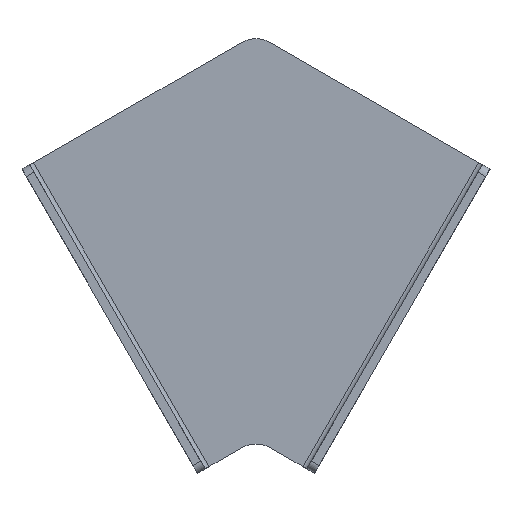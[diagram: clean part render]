
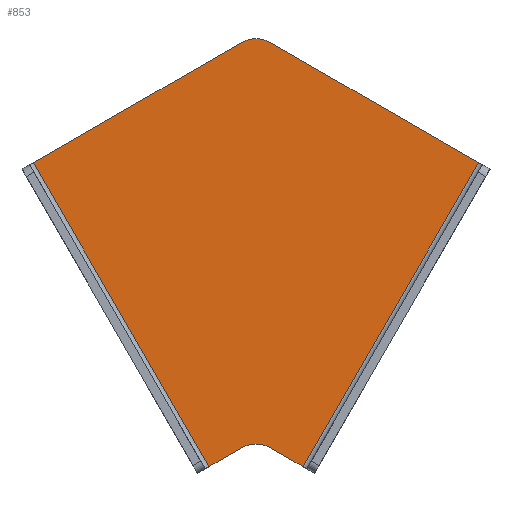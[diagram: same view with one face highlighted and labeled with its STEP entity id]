
A CAD part, top view. The second image highlights one B-rep face of the part: STEP entity #853.
In plain terms, the highlighted planar face has unit normal (0, 0, 1).
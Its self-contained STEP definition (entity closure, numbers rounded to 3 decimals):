
#15 = EDGE_CURVE ( 'NONE', #1645, #664, #381, .T. ) ;
#32 = AXIS2_PLACEMENT_3D ( 'NONE', #330, #1103, #1543 ) ;
#75 = CARTESIAN_POINT ( 'NONE',  ( 37.546, 64.988, 3. ) ) ;
#83 = CARTESIAN_POINT ( 'NONE',  ( 118.649, 23.936, 3. ) ) ;
#91 = LINE ( 'NONE', #1075, #743 ) ;
#109 = VECTOR ( 'NONE', #1148, 1000. ) ;
#114 = ORIENTED_EDGE ( 'NONE', *, *, #15, .F. ) ;
#151 = EDGE_CURVE ( 'NONE', #1662, #664, #1161, .T. ) ;
#182 = CARTESIAN_POINT ( 'NONE',  ( 47.546, -73.576, 3. ) ) ;
#214 = DIRECTION ( 'NONE',  ( 0., 0., 1. ) ) ;
#238 = CARTESIAN_POINT ( 'NONE',  ( 47.546, 64.988, 3. ) ) ;
#275 = CARTESIAN_POINT ( 'NONE',  ( 42.546, -82.237, 3. ) ) ;
#298 = ORIENTED_EDGE ( 'NONE', *, *, #1273, .T. ) ;
#330 = CARTESIAN_POINT ( 'NONE',  ( 0., 0., 3. ) ) ;
#332 = VECTOR ( 'NONE', #989, 1000. ) ;
#358 = CARTESIAN_POINT ( 'NONE',  ( 37.546, -73.576, 3. ) ) ;
#378 = CARTESIAN_POINT ( 'NONE',  ( -19.973, -34.594, 3. ) ) ;
#381 = LINE ( 'NONE', #450, #677 ) ;
#402 = DIRECTION ( 'NONE',  ( 1., 0., 0. ) ) ;
#422 = VERTEX_POINT ( 'NONE', #358 ) ;
#450 = CARTESIAN_POINT ( 'NONE',  ( -18.754, 32.483, 3. ) ) ;
#610 = ORIENTED_EDGE ( 'NONE', *, *, #1559, .T. ) ;
#615 = VECTOR ( 'NONE', #690, 1000. ) ;
#664 = VERTEX_POINT ( 'NONE', #75 ) ;
#677 = VECTOR ( 'NONE', #1220, 1000. ) ;
#690 = DIRECTION ( 'NONE',  ( -0.866, 0.5, 0. ) ) ;
#699 = VERTEX_POINT ( 'NONE', #83 ) ;
#717 = VECTOR ( 'NONE', #1617, 1000. ) ;
#743 = VECTOR ( 'NONE', #1210, 1000. ) ;
#748 = EDGE_CURVE ( 'NONE', #422, #963, #1096, .T. ) ;
#795 = EDGE_CURVE ( 'NONE', #1400, #422, #1434, .T. ) ;
#802 = CARTESIAN_POINT ( 'NONE',  ( 41.246, -71.44, 3. ) ) ;
#835 = ORIENTED_EDGE ( 'NONE', *, *, #1687, .T. ) ;
#853 = ADVANCED_FACE ( 'NONE', ( #1335 ), #1386, .T. ) ;
#865 = AXIS2_PLACEMENT_3D ( 'NONE', #275, #1172, #402 ) ;
#868 = CARTESIAN_POINT ( 'NONE',  ( 26.443, -79.987, 3. ) ) ;
#880 = ORIENTED_EDGE ( 'NONE', *, *, #748, .T. ) ;
#936 = ORIENTED_EDGE ( 'NONE', *, *, #151, .T. ) ;
#956 = CARTESIAN_POINT ( 'NONE',  ( 26.443, -79.987, 3. ) ) ;
#963 = VERTEX_POINT ( 'NONE', #182 ) ;
#989 = DIRECTION ( 'NONE',  ( 0.5, -0.866, 0. ) ) ;
#995 = CARTESIAN_POINT ( 'NONE',  ( 42.546, 56.327, 3. ) ) ;
#1033 = EDGE_LOOP ( 'NONE', ( #114, #298, #1631, #880, #835, #1230, #610, #936 ) ) ;
#1075 = CARTESIAN_POINT ( 'NONE',  ( 118.649, 23.936, 3. ) ) ;
#1096 = CIRCLE ( 'NONE', #865, 10. ) ;
#1103 = DIRECTION ( 'NONE',  ( 0., 0., 1. ) ) ;
#1104 = AXIS2_PLACEMENT_3D ( 'NONE', #995, #214, #1117 ) ;
#1117 = DIRECTION ( 'NONE',  ( 1., 0., 0. ) ) ;
#1148 = DIRECTION ( 'NONE',  ( 0.866, -0.5, 0. ) ) ;
#1161 = CIRCLE ( 'NONE', #1104, 10. ) ;
#1172 = DIRECTION ( 'NONE',  ( 0., 0., -1. ) ) ;
#1210 = DIRECTION ( 'NONE',  ( 0.5, 0.866, 0. ) ) ;
#1220 = DIRECTION ( 'NONE',  ( 0.866, 0.5, 0. ) ) ;
#1230 = ORIENTED_EDGE ( 'NONE', *, *, #1468, .T. ) ;
#1270 = LINE ( 'NONE', #1501, #615 ) ;
#1273 = EDGE_CURVE ( 'NONE', #1645, #1400, #1384, .T. ) ;
#1335 = FACE_OUTER_BOUND ( 'NONE', #1033, .T. ) ;
#1366 = CARTESIAN_POINT ( 'NONE',  ( 58.649, -79.987, 3. ) ) ;
#1384 = LINE ( 'NONE', #868, #332 ) ;
#1386 = PLANE ( 'NONE',  #32 ) ;
#1400 = VERTEX_POINT ( 'NONE', #956 ) ;
#1432 = LINE ( 'NONE', #378, #109 ) ;
#1434 = LINE ( 'NONE', #802, #717 ) ;
#1468 = EDGE_CURVE ( 'NONE', #1514, #699, #91, .T. ) ;
#1501 = CARTESIAN_POINT ( 'NONE',  ( 40.027, 69.329, 3. ) ) ;
#1514 = VERTEX_POINT ( 'NONE', #1366 ) ;
#1524 = CARTESIAN_POINT ( 'NONE',  ( -33.557, 23.936, 3. ) ) ;
#1543 = DIRECTION ( 'NONE',  ( 1., 0., 0. ) ) ;
#1559 = EDGE_CURVE ( 'NONE', #699, #1662, #1270, .T. ) ;
#1617 = DIRECTION ( 'NONE',  ( 0.866, 0.5, 0. ) ) ;
#1631 = ORIENTED_EDGE ( 'NONE', *, *, #795, .T. ) ;
#1645 = VERTEX_POINT ( 'NONE', #1524 ) ;
#1662 = VERTEX_POINT ( 'NONE', #238 ) ;
#1687 = EDGE_CURVE ( 'NONE', #963, #1514, #1432, .T. ) ;
